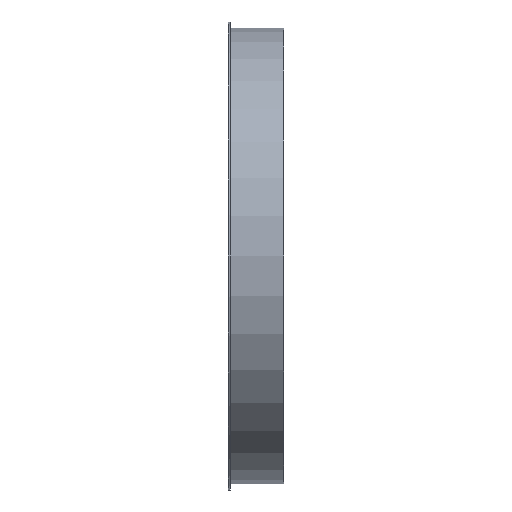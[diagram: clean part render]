
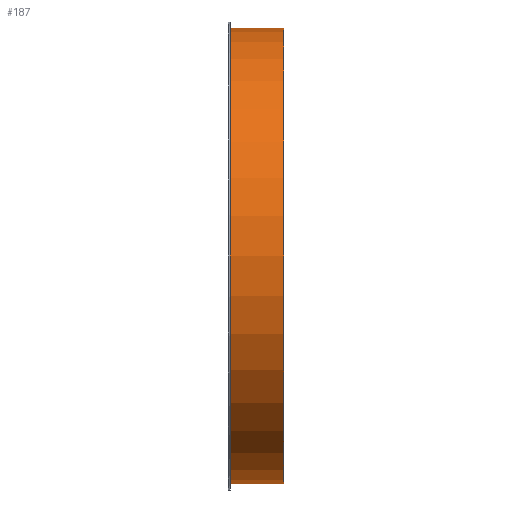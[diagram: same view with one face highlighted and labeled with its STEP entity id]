
A CAD part, front view. The second image highlights one B-rep face of the part: STEP entity #187.
In plain terms, the highlighted cylindrical face has radius 226 mm (diameter 452 mm), a full revolution.
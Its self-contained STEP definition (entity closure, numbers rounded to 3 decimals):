
#112=CARTESIAN_POINT('',(-15.,0.,0.0));
#113=VERTEX_POINT('',#112);
#114=CARTESIAN_POINT('',(-15.,226.0,0.0));
#115=DIRECTION('',(-1.0,0.0,0.0));
#116=DIRECTION('',(0.0,-1.0,0.0));
#117=AXIS2_PLACEMENT_3D('',#114,#115,#116);
#118=CIRCLE('',#117,226.0);
#119=EDGE_CURVE('',#113,#113,#118,.T.);
#161=CARTESIAN_POINT('',(38.0,0.,0.0));
#162=VERTEX_POINT('',#161);
#163=CARTESIAN_POINT('',(38.0,226.0,0.0));
#164=DIRECTION('',(-1.0,0.0,0.0));
#165=DIRECTION('',(0.0,-1.0,0.0));
#166=AXIS2_PLACEMENT_3D('',#163,#164,#165);
#167=CIRCLE('',#166,226.0);
#168=EDGE_CURVE('',#162,#162,#167,.T.);
#176=CARTESIAN_POINT('',(11.5,226.0,0.0));
#177=DIRECTION('',(-1.0,0.0,0.0));
#178=DIRECTION('',(0.0,-1.0,0.0));
#179=AXIS2_PLACEMENT_3D('',#176,#177,#178);
#180=CYLINDRICAL_SURFACE('',#179,226.0);
#181=ORIENTED_EDGE('',*,*,#119,.F.);
#182=EDGE_LOOP('',(#181));
#183=FACE_OUTER_BOUND('',#182,.T.);
#184=ORIENTED_EDGE('',*,*,#168,.T.);
#185=EDGE_LOOP('',(#184));
#186=FACE_BOUND('',#185,.T.);
#187=ADVANCED_FACE('',(#183,#186),#180,.T.);
